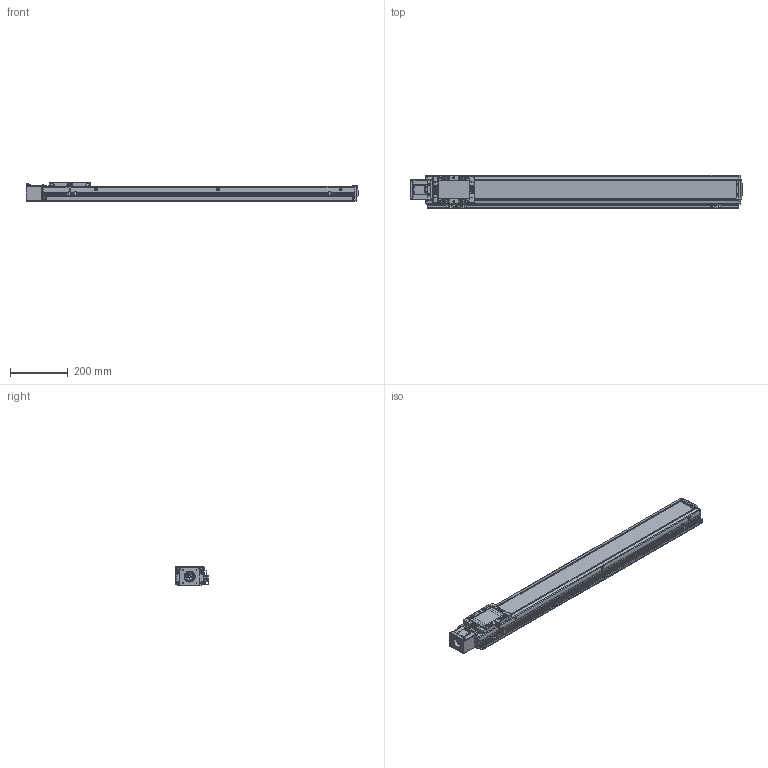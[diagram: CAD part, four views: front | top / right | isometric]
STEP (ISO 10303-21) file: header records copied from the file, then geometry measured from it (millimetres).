
FILE_DESCRIPTION(('STEP AP214'),'1');
FILE_NAME('Z:/Web/3D/SAN100/SAN100 양산용 (STEP)/SAN100ㅁㅁ-900S+3SR.stp','2013-04-30T04:31:07',(' '),(' '),'Spatial InterOp 3D',' ',' ');
FILE_SCHEMA(('automotive_design'));
Length unit declared in the file: millimetre
Products named in the file (60): EE-SX674; SBK-SX674-352; 스크루 : Round - M3.0 x 6.0; M3.0 x 6.0; SRL-16x17-380L; SGD-SAN100; MTHZ-SAN100-S56A; SDA26C-8-6.35; SSFX-SAN65; CPLCV-SAN65; 스크루 : Round - M4.0 x 10.0; FRCV-SAN100; SUS COVER; SFX-SAN100; RRCV-SAN100; FRBL-SAN100; SLBL-SAN100; SLCV-SAN100; 스크루 : Countersunk - M3.0 x 6.0; BASE; 스크루 : Round - M5.0 x 6.0
Bounding box: 1152.5 x 116 x 66 mm (x, y, z)
Volume: 3192955.6 mm3; surface area: 874326.9 mm2
Topology: 60 solids, 61 shells, 3043 faces, 8004 edges, 5189 vertices
Faces by surface type: plane 1526, cylinder 1111, cone 265, sphere 76, torus 45, bspline 20
Entity records: 121732 total; most frequent: CARTESIAN_POINT 18986, DIRECTION 16904, ORIENTED_EDGE 15796, EDGE_CURVE 7898, AXIS2_PLACEMENT_3D 6134, VERTEX_POINT 5189, LINE 4636, VECTOR 4636
